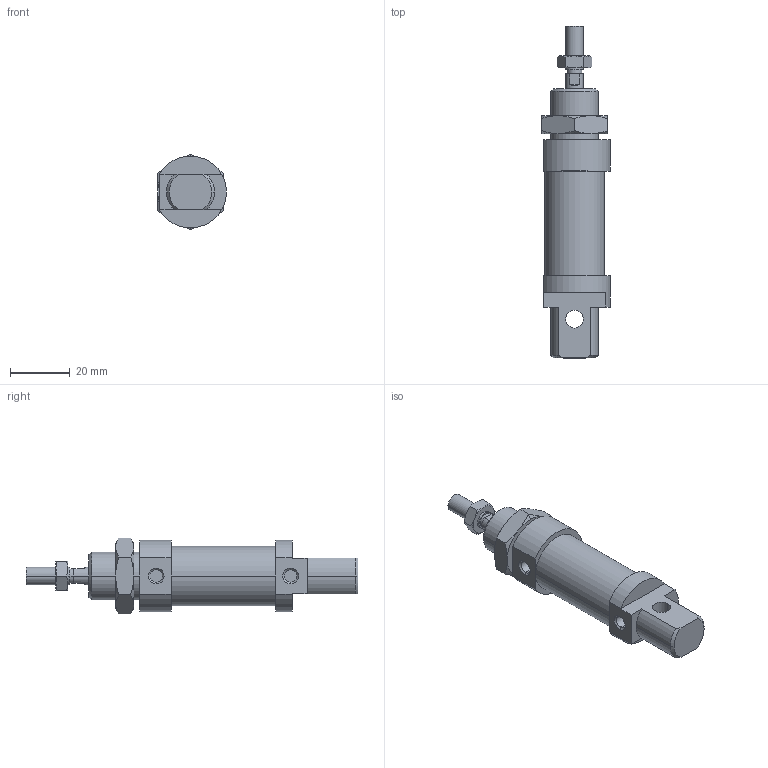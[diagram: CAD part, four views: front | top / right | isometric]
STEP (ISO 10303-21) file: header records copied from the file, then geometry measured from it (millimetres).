
FILE_DESCRIPTION((''),'2;1');
FILE_NAME('I:\DOC-EDP\Lib-3d\1200\CILINDRI\1260\1260_16_0000.stp','2003-04-02T14:58:42',('maffial1'),(''),'Autodesk Inventor (R) 6.0','Autodesk Inventor (R) 6.0','');
FILE_SCHEMA(('AUTOMOTIVE_DESIGN { 1 0 10303 214 1 1 1 1 }'));
Length unit declared in the file: millimetre
Products named in the file (5): 1260_16_0000; S1260_16_0; 1200_16_05; 1200_16_06; C1260_16_0
Assembly tree (4 placements, depth 2):
  1260_16_0000
    S1260_16_0
    1200_16_05
    1200_16_06
    C1260_16_0
Bounding box: 23 x 111 x 25.4 mm (x, y, z)
Volume: 27440.7 mm3; surface area: 9754.3 mm2
Topology: 4 solids, 4 shells, 121 faces, 268 edges, 162 vertices
Faces by surface type: cone 40, plane 39, cylinder 22, bspline 20
Entity records: 3651 total; most frequent: CARTESIAN_POINT 976, DIRECTION 554, ORIENTED_EDGE 536, EDGE_CURVE 268, AXIS2_PLACEMENT_3D 228, VERTEX_POINT 162, EDGE_LOOP 134, FACE_OUTER_BOUND 121
